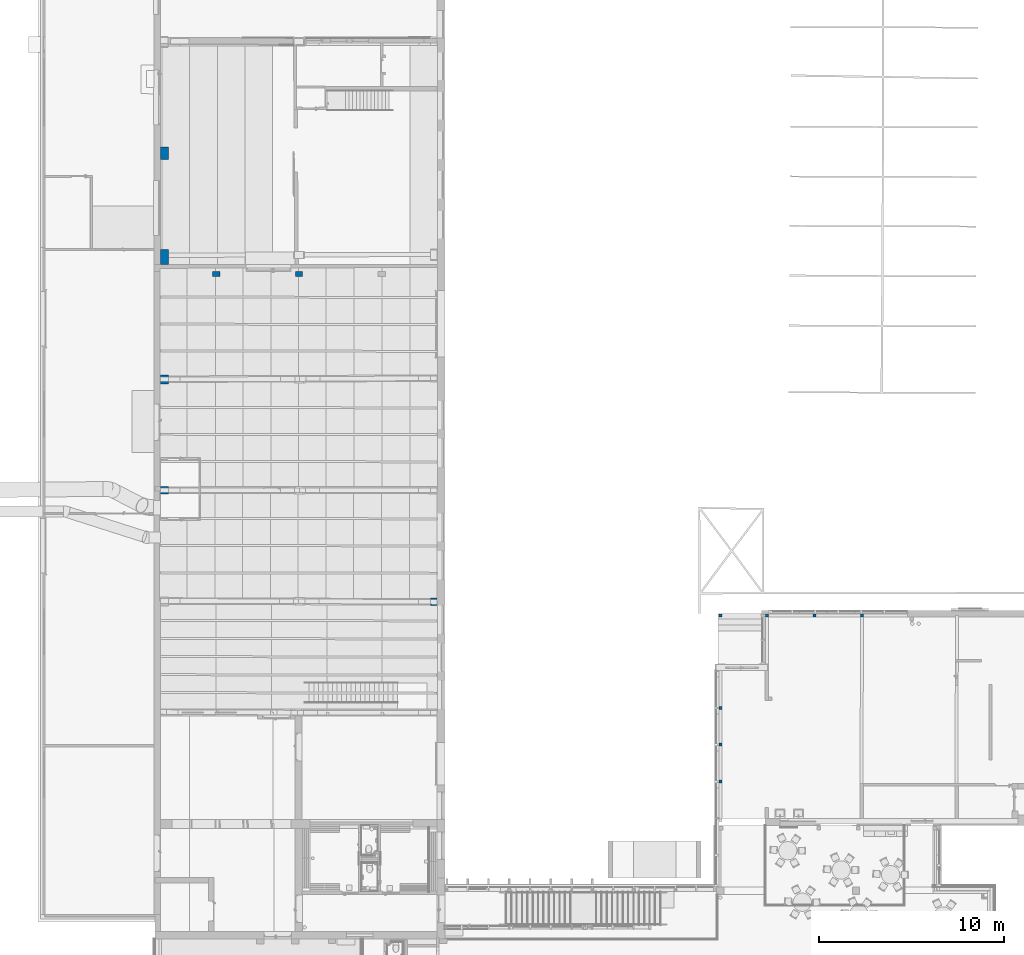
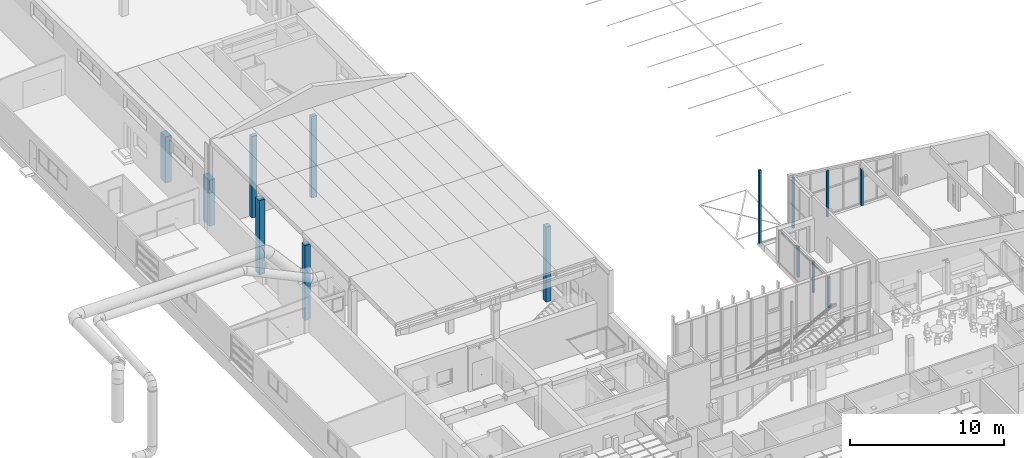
# One storey, part 17 of 301: 14 columns.
"""IFC2X3 building model written with IfcOpenShell, lengths in millimetres."""

import ifcopenshell
import ifcopenshell.guid

model = None  # the IFC model being written
_history = None  # IfcOwnerHistory: only IFC2X3 demands one
_inside = {}  # id of a spatial element -> (the spatial element, [elements in it])
_under = {}  # id of a project, library or spatial element -> (it, [spatial elements below it])
_declared = {}  # id of a project -> (the project, [libraries it declares])
_typed = {}  # id of a type object -> (the type object, [elements of that type])
_made_of = {}  # id of a material, layer set ... -> (it, [elements and type objects made of it])


def new_model(schema):
    """Start an empty IFC model of exactly this schema.

    Asked for "IFC4X3", IfcOpenShell would pick the latest addendum, in which some entities
    have other attributes; the version numbers below select the first issue.
    IFC2X3 requires an IfcOwnerHistory on every rooted entity: one is made here for all.
    """
    global model, _history
    if schema == "IFC4X3":
        model = ifcopenshell.file(schema_version=(4, 3, 0, 0))
    else:
        model = ifcopenshell.file(schema=schema)
    _inside.clear()
    _under.clear()
    _declared.clear()
    _typed.clear()
    _made_of.clear()
    _history = None
    if model.schema == "IFC2X3":
        org = make("IfcOrganization", Name="unknown")
        user = make(
            "IfcPersonAndOrganization",
            ThePerson=make("IfcPerson", FamilyName="unknown"),
            TheOrganization=org,
        )
        app = make(
            "IfcApplication",
            ApplicationDeveloper=org,
            Version="unknown",
            ApplicationFullName="unknown",
            ApplicationIdentifier="unknown",
        )
        _history = make(
            "IfcOwnerHistory",
            OwningUser=user,
            OwningApplication=app,
            ChangeAction="ADDED",
            CreationDate=0,
        )
    return model


def make(cls, **values):
    """One entity of the class cls with the attributes given. An attribute that is None is left unset."""
    return model.create_entity(
        cls, **{name: value for name, value in values.items() if value is not None}
    )


def entity(cls, *values):
    """Any entity or typed value of the class cls, its attributes in the order of the schema. None: left unset."""
    e = model.create_entity(cls)
    for i, value in enumerate(values):
        if value is not None:
            e[i] = value
    return e


def rooted(cls, **values):
    """An entity with a GlobalId (a new one), such as an element, a storey or a relation."""
    return make(cls, GlobalId=ifcopenshell.guid.new(), OwnerHistory=_history, **values)


def si_unit(unit_type, name, prefix=None):
    """IfcSIUnit, for example si_unit("LENGTHUNIT", "METRE", prefix="MILLI")."""
    return make("IfcSIUnit", UnitType=unit_type, Prefix=prefix, Name=name)


def converted_unit(unit_type, name, factor, base, dimensions=None, offset=None):
    """IfcConversionBasedUnit, such as the inch: factor (a typed value) times the base unit."""
    return make(
        "IfcConversionBasedUnit"
        if offset is None
        else "IfcConversionBasedUnitWithOffset",
        ConversionOffset=offset,
        Dimensions=None
        if dimensions is None
        else entity("IfcDimensionalExponents", *dimensions),
        UnitType=unit_type,
        Name=name,
        ConversionFactor=make(
            "IfcMeasureWithUnit", ValueComponent=factor, UnitComponent=base
        ),
    )


def derived_unit(unit_type, elements):
    """IfcDerivedUnit: a product of units, each with its exponent."""
    return make(
        "IfcDerivedUnit",
        Elements=[
            make("IfcDerivedUnitElement", Unit=unit, Exponent=power)
            for unit, power in elements
        ],
        UnitType=unit_type,
    )


def money_unit(currency):
    """IfcMonetaryUnit."""
    return make("IfcMonetaryUnit", Currency=currency)


def assignment(units):
    """IfcUnitAssignment: the units of a project."""
    return None if units is None else make("IfcUnitAssignment", Units=units)


def point(xyz):
    """IfcCartesianPoint."""
    return None if xyz is None else make("IfcCartesianPoint", Coordinates=xyz)


def direction(xyz):
    """IfcDirection."""
    return None if xyz is None else make("IfcDirection", DirectionRatios=xyz)


def frame(location, z_axis=None, x_axis=None):
    """IfcAxis2Placement3D, a coordinate frame: its origin and axes. An axis left out is left unset."""
    return make(
        "IfcAxis2Placement3D",
        Location=point(location),
        Axis=direction(z_axis),
        RefDirection=direction(x_axis),
    )


def origin_with_axes():
    """The frame at (0, 0, 0) with the z axis (0, 0, 1) and the x axis (1, 0, 0) written out."""
    return frame((0.0, 0.0, 0.0), z_axis=(0.0, 0.0, 1.0), x_axis=(1.0, 0.0, 0.0))


def place(relative_to, where):
    """IfcLocalPlacement: puts the frame where relative to a parent placement (None: the world)."""
    return make(
        "IfcLocalPlacement", PlacementRelTo=relative_to, RelativePlacement=where
    )


def context(
    kind, dimensions, precision=None, world=None, true_north=None, identifier=None
):
    """IfcGeometricRepresentationContext, for example the 3D "Model" context."""
    return make(
        "IfcGeometricRepresentationContext",
        ContextIdentifier=identifier,
        ContextType=kind,
        CoordinateSpaceDimension=dimensions,
        Precision=precision,
        WorldCoordinateSystem=world,
        TrueNorth=true_north,
    )


def subcontext(parent, identifier, kind, view, scale=None):
    """IfcGeometricRepresentationSubContext, for example "Body" below "Model"."""
    return make(
        "IfcGeometricRepresentationSubContext",
        ContextIdentifier=identifier,
        ContextType=kind,
        ParentContext=parent,
        TargetScale=scale,
        TargetView=view,
    )


def project(units=None, contexts=None):
    """IfcProject with its units and contexts."""
    return rooted(
        "IfcProject",
        Name="project",
        RepresentationContexts=contexts,
        UnitsInContext=assignment(units),
    )


def spatial(cls, under=None, at=None, **own):
    """A site, building, storey or space (cls), placed at a placement, below another one or the project."""
    s = rooted(cls, ObjectPlacement=at, **own)
    if under is not None:
        _under.setdefault(under.id(), (under, []))[1].append(s)
    return s


def faces_of(points, faces, orient=None, outer=None):
    """IfcFace entities. A face is a list of loops; a loop is a list of indices into points, from 0.

    orient and outer hold one flag for each loop. By default every Orientation is true, the
    first loop of a face is its IfcFaceOuterBound and the others are IfcFaceBound.
    """
    made = []
    for i, loops in enumerate(faces):
        bounds = []
        for j, loop in enumerate(loops):
            is_outer = j == 0 if outer is None else outer[i][j]
            bounds.append(
                make(
                    "IfcFaceOuterBound" if is_outer else "IfcFaceBound",
                    Bound=make("IfcPolyLoop", Polygon=[points[k] for k in loop]),
                    Orientation=True if orient is None else orient[i][j],
                )
            )
        made.append(make("IfcFace", Bounds=bounds))
    return made


def faceted_brep(points, faces, orient=None, outer=None, voids=None):
    """IfcFacetedBrep: a solid bounded by flat faces; with voids (closed shells), ...WithVoids."""
    shared = [point(p) for p in points]
    hull = make("IfcClosedShell", CfsFaces=faces_of(shared, faces, orient, outer))
    if voids is None:
        return make("IfcFacetedBrep", Outer=hull)
    return make(
        "IfcFacetedBrepWithVoids",
        Outer=hull,
        Voids=[
            make(cls, CfsFaces=faces_of(shared, fs, o, b)) for cls, fs, o, b in voids
        ],
    )


def shape(context_of_items, identifier, shape_type, items):
    """IfcShapeRepresentation: the items that make up one representation, for example the "Body"."""
    return make(
        "IfcShapeRepresentation",
        ContextOfItems=context_of_items,
        RepresentationIdentifier=identifier,
        RepresentationType=shape_type,
        Items=items,
    )


def material(Name=None, Category=None):
    """IfcMaterial."""
    return make("IfcMaterial", Name=Name, Category=Category)


def made_of(thing, what):
    """Note that an element or type object is made of a material, layer set ...; save() writes the relation."""
    if what is not None:
        _made_of.setdefault(what.id(), (what, []))[1].append(thing)
    return thing


def type_object(cls, material=None, **own):
    """A type object (cls), such as IfcWallType, which elements share."""
    return made_of(rooted(cls, **own), material)


def element(
    cls,
    number,
    at=None,
    inside=None,
    cuts=None,
    type_object=None,
    material=None,
    context=None,
    identifier="Body",
    shape_type=None,
    held_by="IfcProductDefinitionShape",
    body=None,
    shapes=None,
    **own,
):
    """One element of the class cls, such as IfcWall. Its Tag is "e" and its number.

    at: its placement. inside: the storey or other place that contains it. cuts: it is an
    opening in that element (IfcRelVoidsElement). A single representation is given by context,
    identifier, shape_type and body (its items); several are given by shapes. held_by: the class
    of the entity that holds the representations. save() writes the other relations.
    """
    e = rooted(cls, Tag="e%d" % number, ObjectPlacement=at, **own)
    if body is not None:
        shapes = [shape(context, identifier, shape_type, body)]
    if shapes is not None:
        e.Representation = make(held_by, Representations=shapes)
    if inside is not None:
        _inside.setdefault(inside.id(), (inside, []))[1].append(e)
    if cuts is not None:
        rooted(
            "IfcRelVoidsElement", RelatingBuildingElement=cuts, RelatedOpeningElement=e
        )
    if type_object is not None:
        _typed.setdefault(type_object.id(), (type_object, []))[1].append(e)
    return made_of(e, material)


def aggregate(whole, parts):
    """IfcRelAggregates: a whole, such as a stair, and the parts it consists of."""
    return rooted("IfcRelAggregates", RelatingObject=whole, RelatedObjects=parts)


def save(model, path):
    """Write the relations noted so far, then the file.

    IfcRelAggregates (storeys below a building ...), IfcRelContainedInSpatialStructure (elements
    in a storey), IfcRelDefinesByType, IfcRelAssociatesMaterial and IfcRelDeclares: one each for
    every whole, place, type object, material and project.
    """
    for whole, parts in _under.values():
        aggregate(whole, parts)
    for where, things in _inside.values():
        rooted(
            "IfcRelContainedInSpatialStructure",
            RelatedElements=things,
            RelatingStructure=where,
        )
    for kind, things in _typed.values():
        rooted("IfcRelDefinesByType", RelatedObjects=things, RelatingType=kind)
    for what, things in _made_of.values():
        rooted("IfcRelAssociatesMaterial", RelatedObjects=things, RelatingMaterial=what)
    for by, libraries in _declared.values():
        rooted("IfcRelDeclares", RelatingContext=by, RelatedDefinitions=libraries)
    model.write(path)


model = new_model("IFC2X3")

# Units and contexts
model_context = context("Model", 3, precision=0.01, world=origin_with_axes(), true_north=direction((0.0, 1.0)))
body_context = subcontext(model_context, "Body", "Model", "MODEL_VIEW")
ifc_project = project(units=[si_unit("LENGTHUNIT", "METRE", prefix="MILLI"), si_unit("AREAUNIT", "SQUARE_METRE"), si_unit("VOLUMEUNIT", "CUBIC_METRE"), converted_unit("PLANEANGLEUNIT", "DEGREE", entity("IfcPlaneAngleMeasure", 0.0174532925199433), si_unit("PLANEANGLEUNIT", "RADIAN"), dimensions=[0, 0, 0, 0, 0, 0, 0]), money_unit("EUR"), converted_unit("TIMEUNIT", "Year", entity("IfcTimeMeasure", 31557600.0), si_unit("TIMEUNIT", "SECOND"), dimensions=[0, 0, 1, 0, 0, 0, 0]), si_unit("MASSUNIT", "GRAM", prefix="KILO"), si_unit("THERMODYNAMICTEMPERATUREUNIT", "DEGREE_CELSIUS"), si_unit("LUMINOUSINTENSITYUNIT", "LUMEN"), si_unit("ENERGYUNIT", "JOULE", prefix="MEGA"), derived_unit("THERMALCONDUCTANCEUNIT", [(si_unit("POWERUNIT", "WATT"), 1), (si_unit("LENGTHUNIT", "METRE"), -1), (si_unit("THERMODYNAMICTEMPERATUREUNIT", "KELVIN"), -1)]), derived_unit("SPECIFICHEATCAPACITYUNIT", [(si_unit("ENERGYUNIT", "JOULE"), 1), (si_unit("MASSUNIT", "GRAM", prefix="KILO"), -1), (si_unit("THERMODYNAMICTEMPERATUREUNIT", "KELVIN"), -1)]), derived_unit("MASSDENSITYUNIT", [(si_unit("MASSUNIT", "GRAM", prefix="KILO"), 1), (si_unit("VOLUMEUNIT", "CUBIC_METRE"), -1)])], contexts=[model_context])

# Site, building, storey
site_placement = place(None, frame((0.0, 0.0, 8650.0), z_axis=(0.0, 0.0, 1.0), x_axis=(1.0, 0.0, 0.0)))
site = spatial("IfcSite", under=ifc_project, at=site_placement, Name="43301:001:0844", CompositionType="ELEMENT")
building_placement = place(site_placement, origin_with_axes())
building = spatial("IfcBuilding", under=site, at=building_placement, Name="Kuressaare Ametikooli tuulikute mehaanikute õppekorpus", CompositionType="ELEMENT")
storey_placement = place(building_placement, origin_with_axes())
storey = spatial("IfcBuildingStorey", under=building, at=storey_placement, Name="1.korrus", CompositionType="ELEMENT", Elevation=0.0)

# Columns
ifc_material = material(Name="GENEERILINE - KONSTRUKTRIOON")
column_type_1 = type_object("IfcColumnType", Name="GENEERILINE - KONSTRUKTRIOON 150 x 150", PredefinedType="NOTDEFINED")
column_1_placement = place(storey_placement, frame((118582.9057200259, 43302.43592631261, -346.6666666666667), z_axis=(0.0, 0.0, 1.0), x_axis=(1.0, 0.0, 0.0)))
element("IfcColumn", 1, at=column_1_placement, inside=storey, type_object=column_type_1, material=ifc_material, context=body_context, shape_type="Brep", body=[
    faceted_brep([(-75.00000000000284, -75.00000000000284, 5800.0), (-75.00000000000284, -75.00000000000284, 0.0), (75.00000000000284, -75.00000000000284, 0.0), (75.00000000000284, -75.00000000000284, 5800.0), (-75.00000000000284, 75.00000000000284, 5800.0), (-75.00000000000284, 75.00000000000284, 0.0), (75.00000000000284, 75.00000000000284, 0.0), (75.00000000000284, 75.00000000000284, 5800.0)], [[[0, 1, 2, 3]], [[4, 5, 1, 0]], [[2, 1, 5, 6]], [[3, 2, 6, 7]], [[4, 0, 3, 7]], [[7, 6, 5, 4]]]),
])
column_type_2 = type_object("IfcColumnType", Name="GENEERILINE - KONSTRUKTRIOON 360 x 400", PredefinedType="NOTDEFINED")
column_2_placement = place(storey_placement, frame((103047.5115145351, 44035.6666564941, 130.0), z_axis=(0.0, 0.0, 1.0), x_axis=(-1.0, 0.0, 0.0)))
element("IfcColumn", 2, at=column_2_placement, inside=storey, type_object=column_type_2, material=ifc_material, context=body_context, shape_type="Brep", body=[
    faceted_brep([(180.000692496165, 199.9999999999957, 5950.0), (180.000692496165, 199.9999999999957, 0.0), (-180.000692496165, 199.9999999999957, 0.0), (-180.000692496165, 199.9999999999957, 5950.0), (180.000692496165, -200.0000000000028, 5950.0), (180.000692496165, -200.0000000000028, 0.0), (-180.000692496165, -200.0000000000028, 0.0), (-180.000692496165, -200.0000000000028, 5950.0)], [[[0, 1, 2, 3]], [[4, 5, 1, 0]], [[2, 1, 5, 6]], [[3, 2, 6, 7]], [[4, 0, 3, 7]], [[7, 6, 5, 4]]]),
])
column_type_3 = type_object("IfcColumnType", Name="GENEERILINE - KONSTRUKTRIOON 420 x 410", PredefinedType="NOTDEFINED")
column_3_placement = place(storey_placement, frame((88468.75644683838, 50080.18157356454, 130.0), z_axis=(0.0, 0.0, 1.0), x_axis=(-1.0, 0.0, 0.0)))
element("IfcColumn", 3, at=column_3_placement, inside=storey, type_object=column_type_3, material=ifc_material, context=body_context, shape_type="Brep", body=[
    faceted_brep([(-209.9999999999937, -205.0000000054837, 5950.0), (-209.9999999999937, -205.0000000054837, 0.0), (210.000000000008, -205.0000000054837, 0.0), (210.000000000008, -205.0000000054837, 5950.0), (-209.9999999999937, 205.0000000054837, 5950.0), (-209.9999999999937, 205.0000000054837, 0.0), (210.000000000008, 205.0000000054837, 0.0), (210.000000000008, 205.0000000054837, 5950.0)], [[[0, 1, 2, 3]], [[4, 5, 1, 0]], [[2, 1, 5, 6]], [[3, 2, 6, 7]], [[4, 0, 3, 7]], [[7, 6, 5, 4]]]),
])
column_type_4 = type_object("IfcColumnType", Name="GENEERILINE - KONSTRUKTRIOON 400 x 286", PredefinedType="NOTDEFINED")
for number, where, z_axis, x_axis in (
    (4, (91264.53615747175, 61795.49028843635, 130.0), (0.0, 0.0, 1.0), (1.0, 0.0, 0.0)),
    (5, (95754.53615764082, 61795.47927696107, 130.0), (0.0, 0.0, 1.0), (1.0, 0.0, 0.0)),
):
    element("IfcColumn", number, at=place(storey_placement, frame(where, z_axis=z_axis, x_axis=x_axis)), inside=storey, type_object=column_type_4, material=ifc_material, context=body_context, shape_type="Brep", body=[
        faceted_brep([(-200.0000000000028, -142.8044322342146, 6470.0), (-200.0000000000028, -142.8044322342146, 0.0), (200.0000000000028, -142.8044322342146, 0.0), (200.0000000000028, -142.8044322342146, 6470.0), (-200.0000000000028, 142.8044322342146, 6470.0), (-200.0000000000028, 142.8044322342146, 0.0), (200.0000000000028, 142.8044322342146, 0.0), (200.0000000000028, 142.8044322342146, 6470.0)], [[[0, 1, 2, 3]], [[4, 5, 1, 0]], [[2, 1, 5, 6]], [[3, 2, 6, 7]], [[4, 0, 3, 7]], [[7, 6, 5, 4]]]),
    ])
column_type_5 = type_object("IfcColumnType", Name="GENEERILINE - KONSTRUKTRIOON 420 x 500", PredefinedType="NOTDEFINED")
column_4_placement = place(storey_placement, frame((88468.75644683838, 56077.98181267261, 130.0), z_axis=(0.0, 0.0, 1.0), x_axis=(-1.0, 0.0, 0.0)))
element("IfcColumn", 6, at=column_4_placement, inside=storey, type_object=column_type_5, material=ifc_material, context=body_context, shape_type="Brep", body=[
    faceted_brep([(-209.9999999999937, -250.0000000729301, 5900.0), (-209.9999999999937, -250.0000000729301, 0.0), (210.000000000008, -250.0000000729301, 0.0), (210.000000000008, -250.0000000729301, 5900.0), (-209.9999999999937, 250.0000000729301, 5900.0), (-209.9999999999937, 250.0000000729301, 0.0), (210.000000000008, 250.0000000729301, 0.0), (210.000000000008, 250.0000000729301, 5900.0)], [[[0, 1, 2, 3]], [[4, 5, 1, 0]], [[2, 1, 5, 6]], [[3, 2, 6, 7]], [[4, 0, 3, 7]], [[7, 6, 5, 4]]]),
])
column_type_6 = type_object("IfcColumnType", Name="GENEERILINE - KONSTRUKTRIOON 155 x 155", PredefinedType="NOTDEFINED")
column_5_placement = place(storey_placement, frame((126242.0702886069, 43298.03176304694, 0.0), z_axis=(0.0, 0.0, 1.0), x_axis=(1.0, 0.0, 0.0)))
element("IfcColumn", 7, at=column_5_placement, inside=storey, type_object=column_type_6, material=ifc_material, context=body_context, shape_type="Brep", body=[
    faceted_brep([(-77.50000000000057, -77.50000000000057, 2910.0), (-77.50000000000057, -77.50000000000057, 0.0), (77.50000000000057, -77.50000000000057, 0.0), (77.50000000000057, -77.50000000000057, 2910.0), (-77.50000000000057, 77.50000000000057, 2910.0), (-77.50000000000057, 77.50000000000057, 0.0), (77.50000000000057, 77.50000000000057, 0.0), (77.50000000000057, 77.50000000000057, 2910.0)], [[[0, 1, 2, 3]], [[4, 5, 1, 0]], [[2, 1, 5, 6]], [[3, 2, 6, 7]], [[4, 0, 3, 7]], [[7, 6, 5, 4]]]),
])
column_6_placement = place(storey_placement, frame((123667.0702886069, 43298.03176304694, 0.0), z_axis=(0.0, 0.0, 1.0), x_axis=(1.0, 0.0, 0.0)))
element("IfcColumn", 8, at=column_6_placement, inside=storey, type_object=column_type_6, material=ifc_material, context=body_context, shape_type="Brep", body=[
    faceted_brep([(-77.50000000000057, -77.50000000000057, 3700.0), (-77.50000000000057, -77.50000000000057, 0.0), (77.50000000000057, -77.50000000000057, 0.0), (77.50000000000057, -77.50000000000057, 3700.0), (-77.50000000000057, 77.50000000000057, 3700.0), (-77.50000000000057, 77.50000000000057, 0.0), (77.50000000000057, 77.50000000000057, 0.0), (77.50000000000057, 77.50000000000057, 3700.0)], [[[0, 1, 2, 3]], [[4, 5, 1, 0]], [[2, 1, 5, 6]], [[3, 2, 6, 7]], [[4, 0, 3, 7]], [[7, 6, 5, 4]]]),
])
column_7_placement = place(storey_placement, frame((121102.0702886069, 43298.03176304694, 0.0), z_axis=(0.0, 0.0, 1.0), x_axis=(1.0, 0.0, 0.0)))
element("IfcColumn", 9, at=column_7_placement, inside=storey, type_object=column_type_6, material=ifc_material, context=body_context, shape_type="Brep", body=[
    faceted_brep([(-77.50000000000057, -77.50000000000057, 4009.679633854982), (-77.50000000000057, -77.50000000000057, 0.0), (77.50000000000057, -77.50000000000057, 0.0), (77.50000000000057, -77.50000000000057, 4009.679633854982), (-77.50000000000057, 77.50000000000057, 4009.679633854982), (-77.50000000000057, 77.50000000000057, 0.0), (77.50000000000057, 77.50000000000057, 0.0), (77.50000000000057, 77.50000000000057, 4009.679633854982)], [[[0, 1, 2, 3]], [[4, 5, 1, 0]], [[2, 1, 5, 6]], [[3, 2, 6, 7]], [[4, 0, 3, 7]], [[7, 6, 5, 4]]]),
])
for number, where, z_axis, x_axis in (
    (10, (118582.0490393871, 38298.8847223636, 0.0), (0.0, 0.0, 1.0), (1.0, 0.0, 0.0)),
    (11, (118582.0490393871, 36303.8847223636, 0.0), (0.0, 0.0, 1.0), (1.0, 0.0, 0.0)),
    (12, (118582.0490393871, 34308.8847223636, 0.0), (0.0, 0.0, 1.0), (1.0, 0.0, 0.0)),
):
    element("IfcColumn", number, at=place(storey_placement, frame(where, z_axis=z_axis, x_axis=x_axis)), inside=storey, type_object=column_type_6, material=ifc_material, context=body_context, shape_type="Brep", body=[
        faceted_brep([(-77.50000000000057, -77.50000000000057, 2460.0), (-77.50000000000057, -77.50000000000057, 0.0), (77.50000000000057, -77.50000000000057, 0.0), (77.50000000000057, -77.50000000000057, 2460.0), (-77.50000000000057, 77.50000000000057, 2460.0), (-77.50000000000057, 77.50000000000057, 0.0), (77.50000000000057, 77.50000000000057, 0.0), (77.50000000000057, 77.50000000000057, 2460.0)], [[[0, 1, 2, 3]], [[4, 5, 1, 0]], [[2, 1, 5, 6]], [[3, 2, 6, 7]], [[4, 0, 3, 7]], [[7, 6, 5, 4]]]),
    ])
column_type_7 = type_object("IfcColumnType", Name="GENEERILINE - KONSTRUKTRIOON 420 x 809", PredefinedType="NOTDEFINED")
column_8_placement = place(storey_placement, frame((88468.50864437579, 62722.58792276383, 44.99999999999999), z_axis=(0.0, 0.0, 1.0), x_axis=(-1.0, 0.0, 0.0)))
element("IfcColumn", 13, at=column_8_placement, inside=storey, type_object=column_type_7, material=ifc_material, context=body_context, shape_type="Brep", body=[
    faceted_brep([(-209.9999999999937, -404.3027851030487, 3660.0), (-209.9999999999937, -404.3027851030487, 0.0), (210.000000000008, -404.3027851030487, 0.0), (210.000000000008, -404.3027851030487, 3660.0), (-210.000000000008, 404.3027851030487, 3660.0), (-210.000000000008, 404.3027851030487, 0.0), (209.9999999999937, 404.3027851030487, 0.0), (209.9999999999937, 404.3027851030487, 3660.0)], [[[0, 1, 2, 3]], [[4, 5, 1, 0]], [[2, 1, 5, 6]], [[3, 2, 6, 7]], [[4, 0, 3, 7]], [[7, 6, 5, 4]]]),
])
column_type_8 = type_object("IfcColumnType", Name="GENEERILINE - KONSTRUKTRIOON 420 x 670", PredefinedType="NOTDEFINED")
column_9_placement = place(storey_placement, frame((88468.50864437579, 68325.50677642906, 44.99999999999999), z_axis=(0.0, 0.0, 1.0), x_axis=(-1.0, 0.0, 0.0)))
element("IfcColumn", 14, at=column_9_placement, inside=storey, type_object=column_type_8, material=ifc_material, context=body_context, shape_type="Brep", body=[
    faceted_brep([(-209.9999999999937, -335.0000000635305, 3660.0), (-209.9999999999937, -335.0000000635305, 0.0), (210.000000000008, -335.0000000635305, 0.0), (210.000000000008, -335.0000000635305, 3660.0), (-209.9999999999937, 335.0000000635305, 3660.0), (-209.9999999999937, 335.0000000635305, 0.0), (210.000000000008, 335.0000000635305, 0.0), (210.000000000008, 335.0000000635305, 3660.0)], [[[0, 1, 2, 3]], [[4, 5, 1, 0]], [[2, 1, 5, 6]], [[3, 2, 6, 7]], [[4, 0, 3, 7]], [[7, 6, 5, 4]]]),
])

save(model, "model.ifc")
